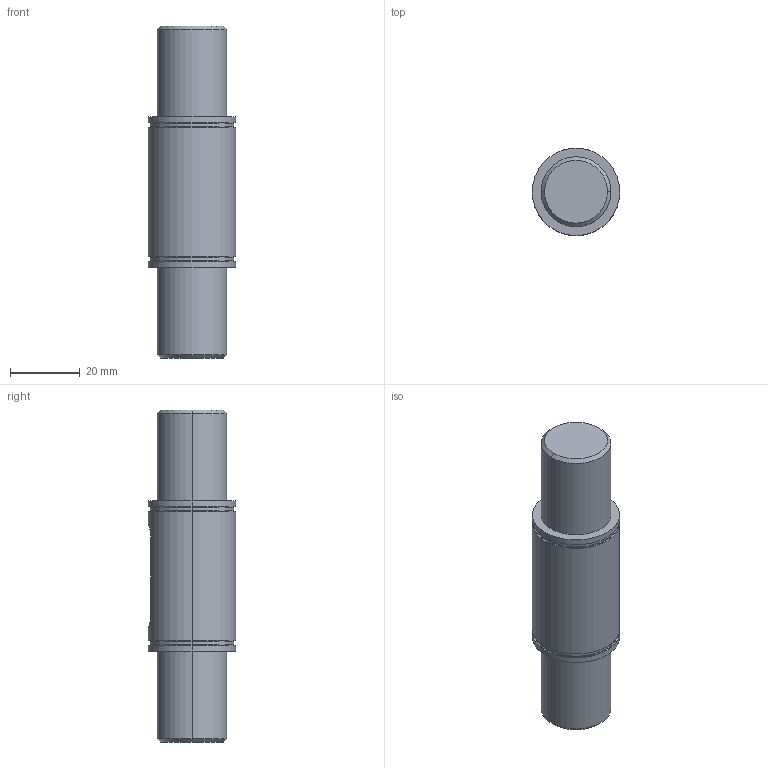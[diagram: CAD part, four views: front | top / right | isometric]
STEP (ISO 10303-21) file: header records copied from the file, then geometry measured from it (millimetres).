
FILE_DESCRIPTION (( 'STEP AP203' ), '1' );
FILE_NAME ('084.812.011.STEP', '2015-05-22T15:28:16', ( '' ), ( '' ), 'SwSTEP 2.0', 'SolidWorks 2012', '' );
FILE_SCHEMA (( 'CONFIG_CONTROL_DESIGN' ));
Length unit declared in the file: millimetre
Products named in the file (1): 084.812.011
Bounding box: 25 x 25 x 95 mm (x, y, z)
Volume: 36415.6 mm3; surface area: 7928.9 mm2
Topology: 1 solids, 1 shells, 40 faces, 81 edges, 50 vertices
Faces by surface type: cylinder 17, plane 11, torus 8, cone 4
Entity records: 1198 total; most frequent: CARTESIAN_POINT 239, DIRECTION 211, ORIENTED_EDGE 162, AXIS2_PLACEMENT_3D 92, EDGE_CURVE 81, CIRCLE 51, VERTEX_POINT 50, EDGE_LOOP 47
